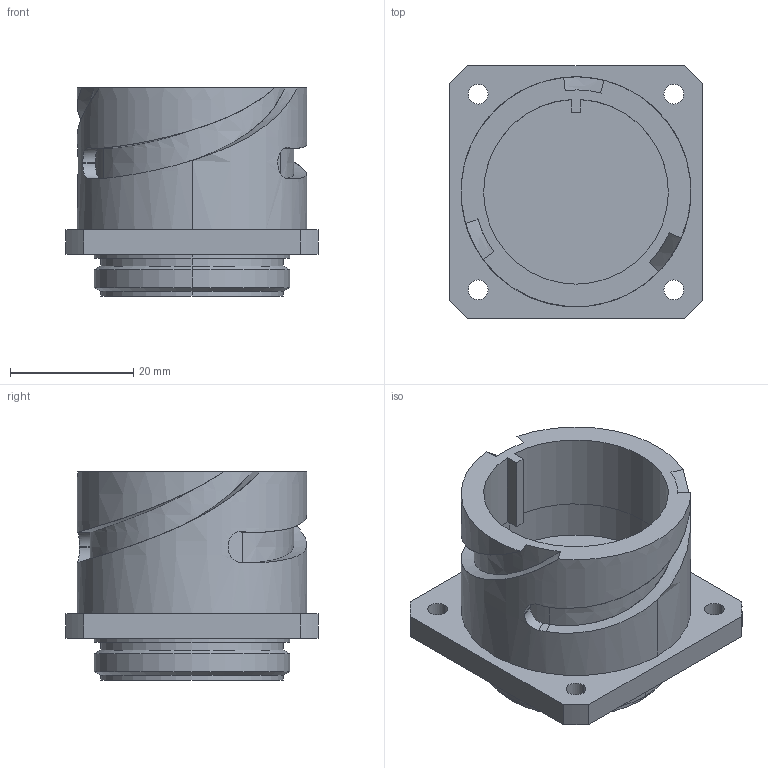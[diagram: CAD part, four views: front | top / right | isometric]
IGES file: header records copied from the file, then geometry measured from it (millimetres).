
Start section:  PTC IGES file: gt030_22_shell.igs
Global section: file name: gt030_22_shell.igs; native system: Creo Parametric by PTC Inc.; preprocessor: 2016260; author: t-nakamura; organization: Unknown; date: 20170622.204300; units: inch
Bounding box: 41 x 41 x 33.81 mm (x, y, z)
Surface area: 10313.4 mm2 (no closed solid volume)
Topology: 0 solids, 0 shells, 73 faces, 360 edges, 360 vertices
Faces by surface type: revolution 37, bspline 36
